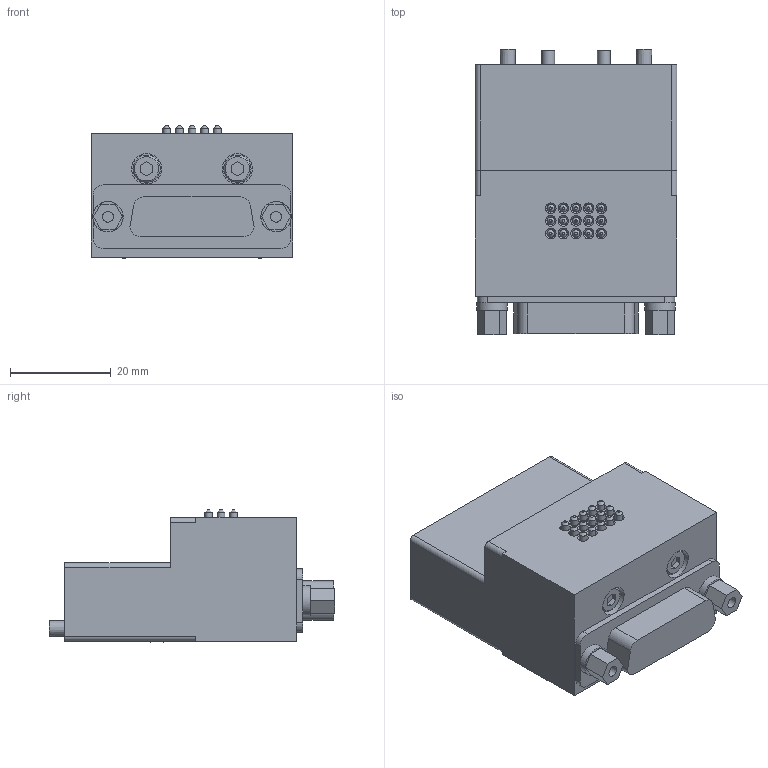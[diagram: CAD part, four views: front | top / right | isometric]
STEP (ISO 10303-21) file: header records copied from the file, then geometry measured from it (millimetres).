
FILE_DESCRIPTION(('STEP AP214'),'1');
FILE_NAME('KHG-12HS-D315C_ver1.stp','2026-05-18T00:45:58',(' '),(' '),'Spatial InterOp 3D',' ',' ');
FILE_SCHEMA(('AUTOMOTIVE_DESIGN { 1 0 10303 214 1 1 1 1 }'));
Length unit declared in the file: millimetre
Products named in the file (1): KHG-12HS-D315C_ver1
Bounding box: 40 x 56.5 x 26.2 mm (x, y, z)
Volume: 38757.6 mm3; surface area: 10831.4 mm2
Topology: 1 solids, 9 shells, 310 faces, 704 edges, 459 vertices
Faces by surface type: plane 193, cylinder 75, cone 42
Full cylindrical faces by diameter (mm): 1.5 x15, 2 x2, 2.15 x6, 2.5 x4, 3 x6, 3.05 x2, 3.2 x2, 3.3 x2, 3.5 x2, 5.41 x4, 5.5 x2, 6 x4
Entity records: 10356 total; most frequent: DIRECTION 1388, CARTESIAN_POINT 1339, ORIENTED_EDGE 1140, EDGE_CURVE 570, AXIS2_PLACEMENT_3D 509, EDGE_LOOP 458, VERTEX_POINT 418, LINE 370
